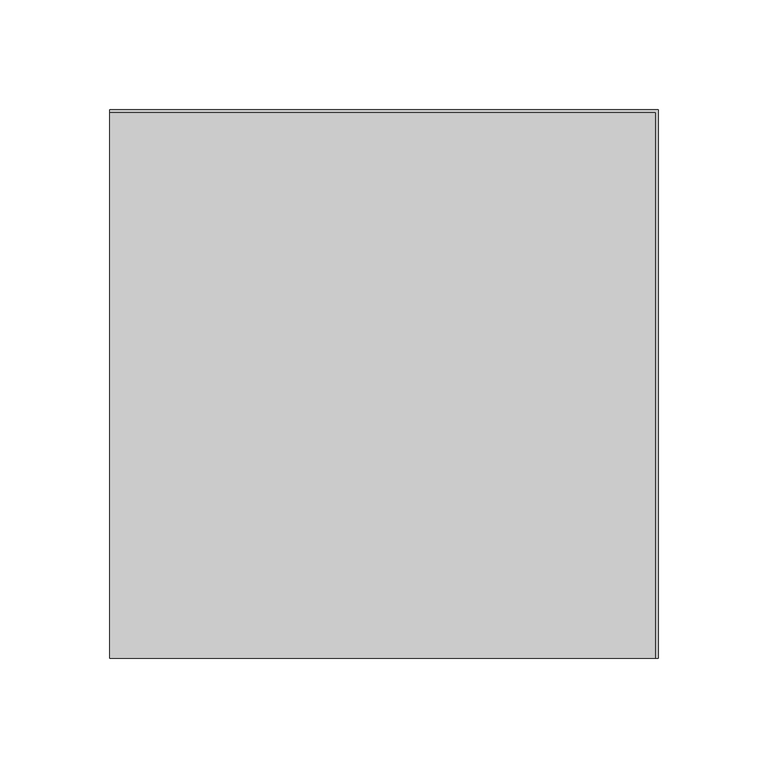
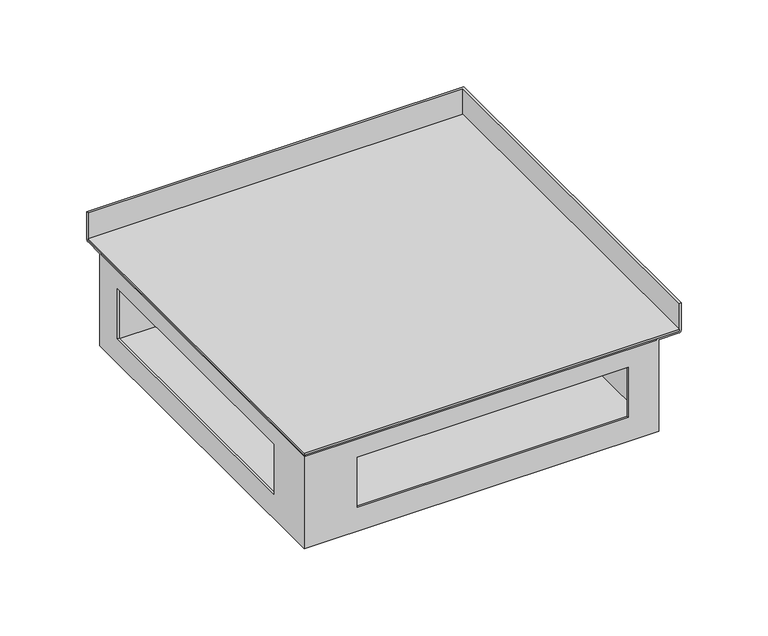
"""IFC4 building model written with IfcOpenShell, lengths in millimetres: proxy geometry, TECHNO_Угловой элемент_KVU : 250_085_90°."""

import ifcopenshell
import ifcopenshell.guid

model = None  # the IFC model being written
_history = None  # IfcOwnerHistory: only IFC2X3 demands one
_inside = {}  # id of a spatial element -> (the spatial element, [elements in it])
_under = {}  # id of a project, library or spatial element -> (it, [spatial elements below it])
_declared = {}  # id of a project -> (the project, [libraries it declares])
_typed = {}  # id of a type object -> (the type object, [elements of that type])
_made_of = {}  # id of a material, layer set ... -> (it, [elements and type objects made of it])


def new_model(schema):
    """Start an empty IFC model of exactly this schema.

    Asked for "IFC4X3", IfcOpenShell would pick the latest addendum, in which some entities
    have other attributes; the version numbers below select the first issue.
    IFC2X3 requires an IfcOwnerHistory on every rooted entity: one is made here for all.
    """
    global model, _history
    if schema == "IFC4X3":
        model = ifcopenshell.file(schema_version=(4, 3, 0, 0))
    else:
        model = ifcopenshell.file(schema=schema)
    _inside.clear()
    _under.clear()
    _declared.clear()
    _typed.clear()
    _made_of.clear()
    _history = None
    if model.schema == "IFC2X3":
        org = make("IfcOrganization", Name="unknown")
        user = make(
            "IfcPersonAndOrganization",
            ThePerson=make("IfcPerson", FamilyName="unknown"),
            TheOrganization=org,
        )
        app = make(
            "IfcApplication",
            ApplicationDeveloper=org,
            Version="unknown",
            ApplicationFullName="unknown",
            ApplicationIdentifier="unknown",
        )
        _history = make(
            "IfcOwnerHistory",
            OwningUser=user,
            OwningApplication=app,
            ChangeAction="ADDED",
            CreationDate=0,
        )
    return model


def make(cls, **values):
    """One entity of the class cls with the attributes given. An attribute that is None is left unset."""
    return model.create_entity(
        cls, **{name: value for name, value in values.items() if value is not None}
    )


def rooted(cls, **values):
    """An entity with a GlobalId (a new one), such as an element, a storey or a relation."""
    return make(cls, GlobalId=ifcopenshell.guid.new(), OwnerHistory=_history, **values)


def si_unit(unit_type, name, prefix=None):
    """IfcSIUnit, for example si_unit("LENGTHUNIT", "METRE", prefix="MILLI")."""
    return make("IfcSIUnit", UnitType=unit_type, Prefix=prefix, Name=name)


def assignment(units):
    """IfcUnitAssignment: the units of a project."""
    return None if units is None else make("IfcUnitAssignment", Units=units)


def point(xyz):
    """IfcCartesianPoint."""
    return None if xyz is None else make("IfcCartesianPoint", Coordinates=xyz)


def direction(xyz):
    """IfcDirection."""
    return None if xyz is None else make("IfcDirection", DirectionRatios=xyz)


def frame(location, z_axis=None, x_axis=None):
    """IfcAxis2Placement3D, a coordinate frame: its origin and axes. An axis left out is left unset."""
    return make(
        "IfcAxis2Placement3D",
        Location=point(location),
        Axis=direction(z_axis),
        RefDirection=direction(x_axis),
    )


def origin():
    """The frame at (0, 0, 0) with its axes left unset."""
    return frame((0.0, 0.0, 0.0))


def place(relative_to, where):
    """IfcLocalPlacement: puts the frame where relative to a parent placement (None: the world)."""
    return make(
        "IfcLocalPlacement", PlacementRelTo=relative_to, RelativePlacement=where
    )


def context(
    kind, dimensions, precision=None, world=None, true_north=None, identifier=None
):
    """IfcGeometricRepresentationContext, for example the 3D "Model" context."""
    return make(
        "IfcGeometricRepresentationContext",
        ContextIdentifier=identifier,
        ContextType=kind,
        CoordinateSpaceDimension=dimensions,
        Precision=precision,
        WorldCoordinateSystem=world,
        TrueNorth=true_north,
    )


def project(units=None, contexts=None):
    """IfcProject with its units and contexts."""
    return rooted(
        "IfcProject",
        Name="project",
        RepresentationContexts=contexts,
        UnitsInContext=assignment(units),
    )


def spatial(cls, under=None, at=None, **own):
    """A site, building, storey or space (cls), placed at a placement, below another one or the project."""
    s = rooted(cls, ObjectPlacement=at, **own)
    if under is not None:
        _under.setdefault(under.id(), (under, []))[1].append(s)
    return s


def polyline(points):
    """IfcPolyline through the points."""
    return make("IfcPolyline", Points=[point(p) for p in points])


def circle_curve(where, radius):
    """IfcCircle in the frame where."""
    return make("IfcCircle", Position=where, Radius=radius)


def ellipse_curve(where, semi_axis1, semi_axis2):
    """IfcEllipse in the frame where."""
    return make(
        "IfcEllipse", Position=where, SemiAxis1=semi_axis1, SemiAxis2=semi_axis2
    )


def outline(outer, holes=None, kind="AREA"):
    """IfcArbitraryClosedProfileDef: a profile drawn as a closed curve; with holes, ...WithVoids."""
    if holes is None:
        return make("IfcArbitraryClosedProfileDef", ProfileType=kind, OuterCurve=outer)
    return make(
        "IfcArbitraryProfileDefWithVoids",
        ProfileType=kind,
        OuterCurve=outer,
        InnerCurves=holes,
    )


def extrude(swept, where, along, depth):
    """IfcExtrudedAreaSolid: the profile swept, set in the frame where, extruded along a direction by depth."""
    return make(
        "IfcExtrudedAreaSolid",
        SweptArea=swept,
        Position=where,
        ExtrudedDirection=direction(along),
        Depth=depth,
    )


def shape(context_of_items, identifier, shape_type, items):
    """IfcShapeRepresentation: the items that make up one representation, for example the "Body"."""
    return make(
        "IfcShapeRepresentation",
        ContextOfItems=context_of_items,
        RepresentationIdentifier=identifier,
        RepresentationType=shape_type,
        Items=items,
    )


def source(mapping_origin, context_of_items, identifier, shape_type, items):
    """IfcRepresentationMap: a shape defined once, which mapped items show again and again."""
    return make(
        "IfcRepresentationMap",
        MappingOrigin=mapping_origin,
        MappedRepresentation=shape(context_of_items, identifier, shape_type, items),
    )


def transform(
    local_origin,
    x_axis=None,
    y_axis=None,
    z_axis=None,
    scale=None,
    scale2=None,
    scale3=None,
    uniform=True,
):
    """IfcCartesianTransformationOperator3D, or its non-uniform kind. x_axis, y_axis, z_axis: its Axis1, 2, 3."""
    if uniform:
        return make(
            "IfcCartesianTransformationOperator3D",
            Axis1=direction(x_axis),
            Axis2=direction(y_axis),
            LocalOrigin=point(local_origin),
            Scale=scale,
            Axis3=direction(z_axis),
        )
    return make(
        "IfcCartesianTransformationOperator3DnonUniform",
        Axis1=direction(x_axis),
        Axis2=direction(y_axis),
        LocalOrigin=point(local_origin),
        Scale=scale,
        Axis3=direction(z_axis),
        Scale2=scale2,
        Scale3=scale3,
    )


def mapped(mapping_source, mapping_target):
    """IfcMappedItem: shows the shape of a source again, moved by a transform."""
    return make(
        "IfcMappedItem", MappingSource=mapping_source, MappingTarget=mapping_target
    )


def made_of(thing, what):
    """Note that an element or type object is made of a material, layer set ...; save() writes the relation."""
    if what is not None:
        _made_of.setdefault(what.id(), (what, []))[1].append(thing)
    return thing


def element(
    cls,
    number,
    at=None,
    inside=None,
    cuts=None,
    type_object=None,
    material=None,
    context=None,
    identifier="Body",
    shape_type=None,
    held_by="IfcProductDefinitionShape",
    body=None,
    shapes=None,
    **own,
):
    """One element of the class cls, such as IfcWall. Its Tag is "e" and its number.

    at: its placement. inside: the storey or other place that contains it. cuts: it is an
    opening in that element (IfcRelVoidsElement). A single representation is given by context,
    identifier, shape_type and body (its items); several are given by shapes. held_by: the class
    of the entity that holds the representations. save() writes the other relations.
    """
    e = rooted(cls, Tag="e%d" % number, ObjectPlacement=at, **own)
    if body is not None:
        shapes = [shape(context, identifier, shape_type, body)]
    if shapes is not None:
        e.Representation = make(held_by, Representations=shapes)
    if inside is not None:
        _inside.setdefault(inside.id(), (inside, []))[1].append(e)
    if cuts is not None:
        rooted(
            "IfcRelVoidsElement", RelatingBuildingElement=cuts, RelatedOpeningElement=e
        )
    if type_object is not None:
        _typed.setdefault(type_object.id(), (type_object, []))[1].append(e)
    return made_of(e, material)


def aggregate(whole, parts):
    """IfcRelAggregates: a whole, such as a stair, and the parts it consists of."""
    return rooted("IfcRelAggregates", RelatingObject=whole, RelatedObjects=parts)


def save(model, path):
    """Write the relations noted so far, then the file.

    IfcRelAggregates (storeys below a building ...), IfcRelContainedInSpatialStructure (elements
    in a storey), IfcRelDefinesByType, IfcRelAssociatesMaterial and IfcRelDeclares: one each for
    every whole, place, type object, material and project.
    """
    for whole, parts in _under.values():
        aggregate(whole, parts)
    for where, things in _inside.values():
        rooted(
            "IfcRelContainedInSpatialStructure",
            RelatedElements=things,
            RelatingStructure=where,
        )
    for kind, things in _typed.values():
        rooted("IfcRelDefinesByType", RelatedObjects=things, RelatingType=kind)
    for what, things in _made_of.values():
        rooted("IfcRelAssociatesMaterial", RelatedObjects=things, RelatingMaterial=what)
    for by, libraries in _declared.values():
        rooted("IfcRelDeclares", RelatingContext=by, RelatedDefinitions=libraries)
    model.write(path)


def plane_surface(at):
    """IfcPlane: the flat surface through the origin of the frame at, square to its z axis."""
    return make("IfcPlane", Position=at)


def cylinder_surface(at, radius):
    """IfcCylindricalSurface: all points at the distance radius from the z axis of the frame at."""
    return make("IfcCylindricalSurface", Position=at, Radius=radius)


def advanced_brep(points, edges, surfaces, faces):
    """IfcAdvancedBrep: a solid bounded by faces that lie on surfaces and meet in shared edges.

    An edge is (start, end): straight between two places in points (the first is 0);
    or (start, end, curve); or (start, end, curve, False) where it runs against its curve.
    A face is (place in surfaces, loops), or (place, loops, False) where it looks against
    its surface's normal. A loop lists edges by number (the first is 1), with a minus sign
    where the edge is run from its end to its start. The first loop is the outer one.
    """
    corners = [point(p) for p in points]
    vertices = [make("IfcVertexPoint", VertexGeometry=c) for c in corners]
    made = []
    for start, end, *more in edges:
        made.append(
            make(
                "IfcEdgeCurve",
                EdgeStart=vertices[start],
                EdgeEnd=vertices[end],
                EdgeGeometry=more[0] if more else make("IfcPolyline", Points=[corners[start], corners[end]]),
                SameSense=more[1] if len(more) > 1 else True,
            )
        )
    hull = []
    for where, loops, *sense in faces:
        bounds = []
        for j, loop in enumerate(loops):
            ring = [make("IfcOrientedEdge", EdgeElement=made[abs(k) - 1], Orientation=k > 0) for k in loop]
            bounds.append(
                make(
                    "IfcFaceOuterBound" if j == 0 else "IfcFaceBound",
                    Bound=make("IfcEdgeLoop", EdgeList=ring),
                    Orientation=True,
                )
            )
        hull.append(make("IfcAdvancedFace", Bounds=bounds, FaceSurface=surfaces[where], SameSense=sense[0] if sense else True))
    return make("IfcAdvancedBrep", Outer=make("IfcClosedShell", CfsFaces=hull))


def mechanical_equipment_9e960046(model_context):
    return source(origin(), model_context, "Body", "SolidModel", [
        extrude(outline(polyline([(0.0, 123.8), (248.8, 123.8), (248.8, -125.0), (0.0, -125.0), (0.0, 123.8)])), frame((0.0, 0.0, -19.3), z_axis=(0.0, 0.0, 1.0), x_axis=(1.0, 0.0, 0.0)), (0.0, 0.0, 1.0), 1.2),
        advanced_brep(
        [(1.2, 109.0, -83.8), (1.2, -123.8, -83.8), (234.0, -123.8, -83.8), (234.0, 109.0, -83.8), (0.0, 110.2, -85.0), (235.2, 110.2, -85.0), (235.2, -125.0, -85.0), (0.0, -125.0, -85.0), (0.0, 110.2, -20.5), (0.0, -125.0, -20.5), (0.0, 109.0, -20.5), (0.0, 110.2, -19.3), (0.0, 123.8, -19.3), (0.0, 123.8, 0.0), (0.0, 125.0, 0.0), (0.0, 125.0, -19.3), (0.0, 123.8, -20.5), (0.0, -90.0, -33.0), (0.0, -90.0, -68.0), (0.0, 90.0, -68.0), (0.0, 90.0, -33.0), (235.2, -125.0, -20.5), (248.8, -125.0, -20.5), (250.0, -125.0, -19.3), (250.0, -125.0, 0.0), (248.8, -125.0, 0.0), (248.8, -125.0, -19.3), (235.2, -125.0, -19.3), (234.0, -125.0, -20.5), (35.0, -125.0, -68.0), (35.0, -125.0, -33.0), (215.0, -125.0, -33.0), (215.0, -125.0, -68.0), (235.2, 110.2, -20.5), (1.2, 110.2, -19.3), (1.2, -123.8, -19.3), (235.2, -123.8, -19.3), (248.8, 123.8, -19.3), (235.2, -109.0, -19.3), (16.0, -109.0, -19.3), (16.0, 110.2, -19.3), (235.2, 110.2, -19.3), (16.0, -109.0, -20.5), (16.0, 109.0, -20.5), (234.0, -109.0, -20.5), (234.0, -123.8, -20.5), (1.2, -123.8, -20.5), (1.2, 109.0, -20.5), (1.2, -90.0, -68.0), (1.2, -90.0, -33.0), (1.2, 90.0, -33.0), (1.2, 90.0, -68.0), (35.0, -123.8, -33.0), (35.0, -123.8, -68.0), (215.0, -123.8, -68.0), (215.0, -123.8, -33.0), (250.0, 125.0, -19.3), (250.0, 125.0, 0.0), (248.8, 123.8, 0.0), (248.8, 123.8, -20.5), (234.0, 109.0, -20.5)],
        [
            (0, 1),
            (1, 2),
            (2, 3),
            (3, 0),
            (4, 5),
            (5, 6),
            (6, 7),
            (7, 4),
            (8, 4),
            (7, 9),
            (9, 10),
            (10, 11, circle_curve(frame((0.0, 110.2, -20.5), z_axis=(-1.0, 0.0, 0.0), x_axis=(0.0, -1.0, 0.0)), 1.2)),
            (11, 12),
            (12, 13),
            (13, 14),
            (14, 15),
            (15, 16, circle_curve(frame((0.0, 123.8, -19.3), z_axis=(-1.0, 0.0, 0.0), x_axis=(0.0, -1.0, 0.0)), 1.2)),
            (16, 8),
            (17, 18),
            (18, 19),
            (19, 20),
            (20, 17),
            (6, 21),
            (21, 22),
            (22, 23, circle_curve(frame((248.8, -125.0, -19.3), z_axis=(0.0, -1.0, 0.0), x_axis=(-1.0, 0.0, 0.0)), 1.2)),
            (23, 24),
            (24, 25),
            (25, 26),
            (26, 27),
            (27, 28, circle_curve(frame((235.2, -125.0, -20.5), z_axis=(0.0, -1.0, 0.0), x_axis=(-1.0, 0.0, 0.0)), 1.2)),
            (28, 9),
            (29, 30),
            (30, 31),
            (31, 32),
            (32, 29),
            (8, 33),
            (33, 5),
            (33, 21),
            (34, 35),
            (35, 36),
            (36, 27),
            (26, 37),
            (37, 12),
            (11, 34),
            (38, 39),
            (39, 40),
            (40, 41),
            (41, 38),
            (39, 42),
            (42, 43),
            (43, 40, circle_curve(frame((16.0, 110.2, -20.5), z_axis=(-1.0, 0.0, 0.0), x_axis=(0.0, -1.0, 0.0)), 1.2)),
            (38, 44, circle_curve(frame((235.2, -109.0, -20.5), z_axis=(0.0, -1.0, 0.0), x_axis=(-1.0, 0.0, 0.0)), 1.2)),
            (44, 42),
            (44, 45),
            (45, 46),
            (46, 47),
            (47, 43),
            (46, 1),
            (0, 47),
            (48, 49),
            (49, 50),
            (50, 51),
            (51, 48),
            (45, 2),
            (52, 53),
            (53, 54),
            (54, 55),
            (55, 52),
            (34, 10, ellipse_curve(frame((1.2, 110.2, -20.5), z_axis=(0.7071067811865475, -0.7071067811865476, 0.0), x_axis=(0.7071067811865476, 0.7071067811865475, 0.0)), 1.6970563, 1.2)),
            (9, 35, ellipse_curve(frame((1.2, -123.8, -20.5), z_axis=(-0.7071067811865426, 0.7071067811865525, 0.0), x_axis=(0.7071067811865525, 0.7071067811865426, 0.0)), 1.6970563, 1.2)),
            (28, 36, ellipse_curve(frame((235.2, -123.8, -20.5), z_axis=(-0.707106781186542, 0.7071067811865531, 0.0), x_axis=(-0.7071067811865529, -0.707106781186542, 0.0)), 1.6970563, 1.2)),
            (23, 56),
            (56, 57),
            (57, 24),
            (57, 14),
            (13, 58),
            (58, 25),
            (58, 37),
            (16, 59),
            (59, 22),
            (59, 56, ellipse_curve(frame((248.8, 123.8, -19.3), z_axis=(0.7071067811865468, -0.7071067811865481, 0.0), x_axis=(-0.7071067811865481, -0.7071067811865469, 0.0)), 1.6970563, 1.2)),
            (56, 15),
            (41, 60, ellipse_curve(frame((235.2, 110.2, -20.5), z_axis=(0.7071067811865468, -0.7071067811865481, 0.0), x_axis=(-0.7071067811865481, -0.7071067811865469, 0.0)), 1.6970563, 1.2)),
            (60, 44),
            (60, 3),
            (43, 60),
            (48, 18),
            (17, 49),
            (51, 19),
            (50, 20),
            (52, 30),
            (29, 53),
            (55, 31),
            (54, 32),
        ],
        [
            plane_surface(frame((0.0, 109.0, -83.8), z_axis=(0.0, 0.0, 1.0), x_axis=(0.0, -1.0, 0.0))),
            plane_surface(frame((0.0, 109.0, -85.0), z_axis=(0.0, 0.0, -1.0), x_axis=(0.0, 1.0, 0.0))),
            plane_surface(frame((0.0, 109.0, -83.8), z_axis=(-1.0, 0.0, 0.0), x_axis=(0.0, 0.0, -1.0))),
            plane_surface(frame((0.0, -125.0, -83.8), z_axis=(0.0, -1.0, 0.0), x_axis=(0.0, 0.0, -1.0))),
            plane_surface(frame((0.0, 110.2, -85.0), z_axis=(0.0, 1.0, 0.0), x_axis=(0.0, 0.0, -1.0))),
            plane_surface(frame((235.2, -125.0, -85.0), z_axis=(1.0, 0.0, 0.0), x_axis=(0.0, 0.0, -1.0))),
            plane_surface(frame((1.2, 110.2, -19.3), z_axis=(0.0, 0.0, 1.0), x_axis=(0.0, -1.0, 0.0))),
            plane_surface(frame((16.0, 110.2, -19.3), z_axis=(1.0, 0.0, 0.0), x_axis=(0.0, -1.0, 0.0))),
            plane_surface(frame((16.0, -109.0, -19.3), z_axis=(0.0, 1.0, 0.0), x_axis=(1.0, 0.0, 0.0))),
            plane_surface(frame((16.0, 110.2, -20.5), z_axis=(0.0, 0.0, -1.0), x_axis=(0.0, -1.0, 0.0))),
            plane_surface(frame((1.2, 110.2, -20.5), z_axis=(1.0, 0.0, 0.0), x_axis=(0.0, -1.0, 0.0))),
            plane_surface(frame((1.2, -123.8, -20.5), z_axis=(0.0, 1.0, 0.0), x_axis=(1.0, 0.0, 0.0))),
            cylinder_surface(frame((1.2, 110.2, -20.5), z_axis=(0.0, 1.0, 0.0), x_axis=(-1.0, 0.0, 0.0)), 1.2),
            cylinder_surface(frame((0.0, -123.8, -20.5), z_axis=(-1.0, 0.0, 0.0), x_axis=(0.0, -1.0, 0.0)), 1.2),
            plane_surface(frame((250.0, -125.0, -19.3), z_axis=(1.0, 0.0, 0.0), x_axis=(0.0, 1.0, 0.0))),
            plane_surface(frame((250.0, -125.0, 0.0), z_axis=(0.0, 0.0, 1.0), x_axis=(0.0, 1.0, 0.0))),
            plane_surface(frame((248.8, -125.0, 0.0), z_axis=(-1.0, 0.0, 0.0), x_axis=(0.0, 1.0, 0.0))),
            plane_surface(frame((235.2, -125.0, -20.5), z_axis=(0.0, 0.0, -1.0), x_axis=(0.0, 1.0, 0.0))),
            cylinder_surface(frame((248.8, -125.0, -19.3), z_axis=(0.0, -1.0, 0.0), x_axis=(-1.0, 0.0, 0.0)), 1.2),
            plane_surface(frame((250.0, 125.0, -19.3), z_axis=(0.0, 1.0, 0.0), x_axis=(-1.0, 0.0, 0.0))),
            plane_surface(frame((248.8, 123.8, 0.0), z_axis=(0.0, -1.0, 0.0), x_axis=(-1.0, 0.0, 0.0))),
            cylinder_surface(frame((125.0, 123.8, -19.3), z_axis=(1.0, 0.0, 0.0), x_axis=(0.0, -1.0, 0.0)), 1.2),
            cylinder_surface(frame((235.2, -125.0, -20.5), z_axis=(0.0, -1.0, 0.0), x_axis=(-1.0, 0.0, 0.0)), 1.2),
            plane_surface(frame((234.0, -125.0, -20.5), z_axis=(-1.0, 0.0, 0.0), x_axis=(0.0, 1.0, 0.0))),
            cylinder_surface(frame((125.0, 110.2, -20.5), z_axis=(1.0, 0.0, 0.0), x_axis=(0.0, -1.0, 0.0)), 1.2),
            plane_surface(frame((234.0, 109.0, -20.5), z_axis=(0.0, -1.0, 0.0), x_axis=(-1.0, 0.0, 0.0))),
            plane_surface(frame((1.2, -90.0, -33.0), z_axis=(0.0, 1.0, 0.0), x_axis=(-1.0, 0.0, 0.0))),
            plane_surface(frame((1.2, -90.0, -68.0), z_axis=(0.0, 0.0, 1.0), x_axis=(-1.0, 0.0, 0.0))),
            plane_surface(frame((1.2, 90.0, -68.0), z_axis=(0.0, -1.0, 0.0), x_axis=(-1.0, 0.0, 0.0))),
            plane_surface(frame((1.2, 90.0, -33.0), z_axis=(0.0, 0.0, -1.0), x_axis=(-1.0, 0.0, 0.0))),
            plane_surface(frame((35.0, -123.8, -68.0), z_axis=(1.0, 0.0, 0.0), x_axis=(0.0, -1.0, 0.0))),
            plane_surface(frame((35.0, -123.8, -33.0), z_axis=(0.0, 0.0, -1.0), x_axis=(0.0, -1.0, 0.0))),
            plane_surface(frame((215.0, -123.8, -33.0), z_axis=(-1.0, 0.0, 0.0), x_axis=(0.0, -1.0, 0.0))),
            plane_surface(frame((215.0, -123.8, -68.0), z_axis=(0.0, 0.0, 1.0), x_axis=(0.0, -1.0, 0.0))),
        ],
        [
            (0, [[1, 2, 3, 4]]),
            (1, [[5, 6, 7, 8]]),
            (2, [[9, -8, 10, 11, 12, 13, 14, 15, 16, 17, 18], [19, 20, 21, 22]]),
            (3, [[23, 24, 25, 26, 27, 28, 29, 30, 31, -10, -7], [32, 33, 34, 35]]),
            (4, [[-9, 36, 37, -5]]),
            (5, [[-23, -6, -37, 38]]),
            (6, [[39, 40, 41, -29, 42, 43, -13, 44], [45, 46, 47, 48]]),
            (7, [[-46, 49, 50, 51]]),
            (8, [[-45, 52, 53, -49]]),
            (9, [[-50, -53, 54, 55, 56, 57]]),
            (10, [[58, -1, 59, -56], [60, 61, 62, 63]]),
            (11, [[-58, -55, 64, -2], [65, 66, 67, 68]]),
            (12, [[-39, 69, -11, 70]]),
            (13, [[-40, -70, -31, 71]]),
            (14, [[-26, 72, 73, 74]]),
            (15, [[-27, -74, 75, -15, 76, 77]]),
            (16, [[-28, -77, 78, -42]]),
            (17, [[-24, -38, -36, -18, 79, 80]]),
            (18, [[-25, -80, 81, -72]]),
            (19, [[-73, 82, -16, -75]]),
            (20, [[-76, -14, -43, -78]]),
            (21, [[-79, -17, -82, -81]]),
            (22, [[-30, -41, -71]]),
            (22, [[83, 84, -52, -48]]),
            (23, [[85, -3, -64, -54, -84]]),
            (24, [[-12, -69, -44]]),
            (24, [[-83, -47, -51, 86]]),
            (25, [[-85, -86, -57, -59, -4]]),
            (26, [[87, -19, 88, -60]]),
            (27, [[-87, -63, 89, -20]]),
            (28, [[-89, -62, 90, -21]]),
            (29, [[-88, -22, -90, -61]]),
            (30, [[91, -32, 92, -65]]),
            (31, [[-91, -68, 93, -33]]),
            (32, [[-93, -67, 94, -34]]),
            (33, [[-92, -35, -94, -66]]),
        ],
    ),
    ])


if __name__ == "__main__":
    model = new_model("IFC4")
    model_context = context("Model", 3, world=origin())
    ifc_project = project(units=[si_unit("LENGTHUNIT", "METRE", prefix="MILLI")], contexts=[model_context])
    site = spatial("IfcSite", under=ifc_project)
    building = spatial("IfcBuilding", under=site)
    placement = place(None, origin())
    mechanical_equipment_shape = mechanical_equipment_9e960046(model_context)
    element("IfcBuildingElementProxy", 1, Name="TECHNO_Угловой элемент_KVU : 250_085_90°", ObjectType="TECHNO_Угловой элемент_KVU : 250_085_90°", at=placement, inside=building, context=model_context, shape_type="MappedRepresentation", body=[
        mapped(mechanical_equipment_shape, transform((0.0, 0.0, 0.0), x_axis=(1.0, 0.0, 0.0), y_axis=(0.0, 1.0, 0.0), z_axis=(0.0, 0.0, 1.0))),
    ])
    save(model, "model.ifc")
